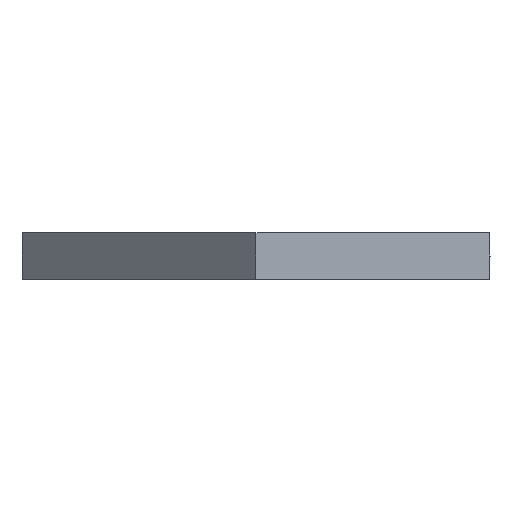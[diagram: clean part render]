
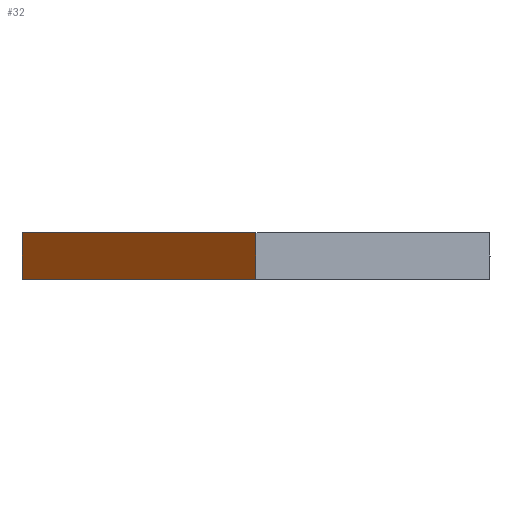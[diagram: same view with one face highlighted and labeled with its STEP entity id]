
A CAD part, left-side view. The second image highlights one B-rep face of the part: STEP entity #32.
In plain terms, the highlighted planar face has unit normal (-0.707, 0.707, 0).
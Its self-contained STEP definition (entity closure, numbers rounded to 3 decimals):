
#32 = ADVANCED_FACE ( 'NONE', ( #735 ), #1468, .F. ) ;
#221 = ORIENTED_EDGE ( 'NONE', *, *, #2195, .F. ) ;
#224 = ORIENTED_EDGE ( 'NONE', *, *, #2174, .F. ) ;
#271 = ORIENTED_EDGE ( 'NONE', *, *, #2167, .T. ) ;
#291 = ORIENTED_EDGE ( 'NONE', *, *, #2153, .T. ) ;
#451 = VERTEX_POINT ( 'NONE', #1624 ) ;
#534 = VERTEX_POINT ( 'NONE', #1654 ) ;
#535 = VERTEX_POINT ( 'NONE', #1700 ) ;
#551 = VERTEX_POINT ( 'NONE', #1669 ) ;
#564 = EDGE_LOOP ( 'NONE', ( #291, #224, #221, #271 ) ) ;
#735 = FACE_OUTER_BOUND ( 'NONE', #564, .T. ) ;
#996 = LINE ( 'NONE', #1272, #1016 ) ;
#1016 = VECTOR ( 'NONE', #1268, 1000. ) ;
#1040 = VECTOR ( 'NONE', #1311, 1000. ) ;
#1043 = LINE ( 'NONE', #1297, #1083 ) ;
#1054 = LINE ( 'NONE', #1360, #1078 ) ;
#1064 = LINE ( 'NONE', #1327, #1040 ) ;
#1078 = VECTOR ( 'NONE', #1373, 1000. ) ;
#1083 = VECTOR ( 'NONE', #1325, 1000. ) ;
#1268 = DIRECTION ( 'NONE',  ( -0.707, -0.707, 0. ) ) ;
#1272 = CARTESIAN_POINT ( 'NONE',  ( -161.11, 0., 0. ) ) ;
#1297 = CARTESIAN_POINT ( 'NONE',  ( -151.11, 10., 2. ) ) ;
#1311 = DIRECTION ( 'NONE',  ( 0., 0., -1. ) ) ;
#1325 = DIRECTION ( 'NONE',  ( 0., 0., -1. ) ) ;
#1327 = CARTESIAN_POINT ( 'NONE',  ( -161.11, 0., 2. ) ) ;
#1360 = CARTESIAN_POINT ( 'NONE',  ( -161.11, 0., 2. ) ) ;
#1373 = DIRECTION ( 'NONE',  ( -0.707, -0.707, 0. ) ) ;
#1458 = DIRECTION ( 'NONE',  ( 0.707, 0.707, 0. ) ) ;
#1468 = PLANE ( 'NONE',  #1906 ) ;
#1489 = DIRECTION ( 'NONE',  ( 0.707, -0.707, 0. ) ) ;
#1492 = CARTESIAN_POINT ( 'NONE',  ( -161.11, 0., 2. ) ) ;
#1624 = CARTESIAN_POINT ( 'NONE',  ( -151.11, 10., 0. ) ) ;
#1654 = CARTESIAN_POINT ( 'NONE',  ( -161.11, 0., 2. ) ) ;
#1669 = CARTESIAN_POINT ( 'NONE',  ( -161.11, 0., 0. ) ) ;
#1700 = CARTESIAN_POINT ( 'NONE',  ( -151.11, 10., 2. ) ) ;
#1906 = AXIS2_PLACEMENT_3D ( 'NONE', #1492, #1489, #1458 ) ;
#2153 = EDGE_CURVE ( 'NONE', #451, #551, #996, .T. ) ;
#2167 = EDGE_CURVE ( 'NONE', #535, #451, #1043, .T. ) ;
#2174 = EDGE_CURVE ( 'NONE', #534, #551, #1064, .T. ) ;
#2195 = EDGE_CURVE ( 'NONE', #535, #534, #1054, .T. ) ;
